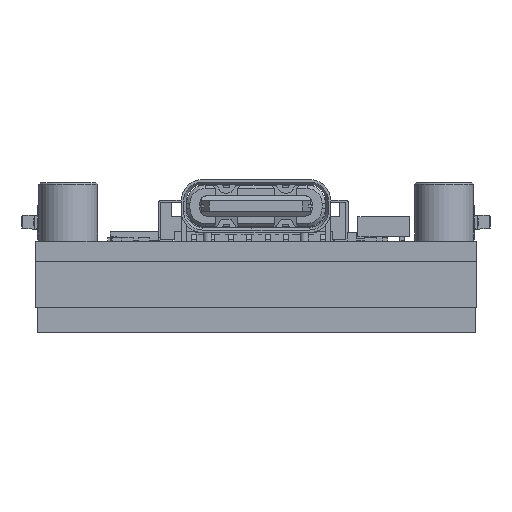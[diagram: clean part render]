
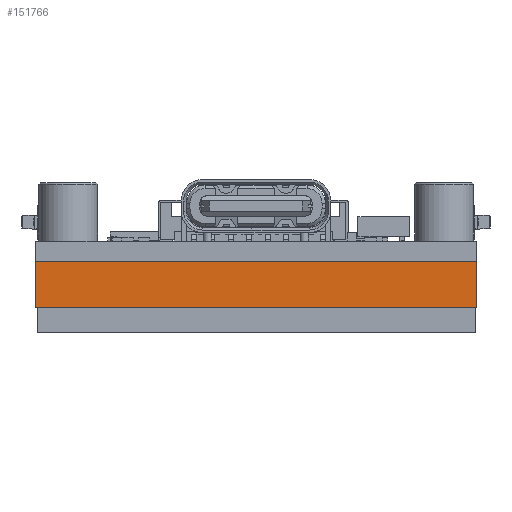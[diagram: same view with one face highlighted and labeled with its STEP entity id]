
A CAD part, front view. The second image highlights one B-rep face of the part: STEP entity #151766.
In plain terms, the highlighted planar face has unit normal (0, -1, 0).
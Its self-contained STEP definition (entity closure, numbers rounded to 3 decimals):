
#150982=DIRECTION('',(-1.,0.,0.));
#150983=VECTOR('',#150982,26.305);
#150984=CARTESIAN_POINT('',(9.295,13.032,-1.2));
#150985=LINE('',#150984,#150983);
#151106=DIRECTION('',(-1.,0.,0.));
#151107=VECTOR('',#151106,26.305);
#151108=CARTESIAN_POINT('',(9.295,13.032,-3.95));
#151109=LINE('',#151108,#151107);
#151163=DIRECTION('',(0.,0.,-1.));
#151164=VECTOR('',#151163,2.75);
#151165=CARTESIAN_POINT('',(9.295,13.032,-1.2));
#151166=LINE('',#151165,#151164);
#151171=DIRECTION('',(0.,0.,-1.));
#151172=VECTOR('',#151171,2.75);
#151173=CARTESIAN_POINT('',(-17.01,13.032,-1.2));
#151174=LINE('',#151173,#151172);
#151235=CARTESIAN_POINT('',(9.295,13.032,-1.2));
#151236=CARTESIAN_POINT('',(-17.01,13.032,-1.2));
#151237=VERTEX_POINT('',#151235);
#151238=VERTEX_POINT('',#151236);
#151239=CARTESIAN_POINT('',(9.295,13.032,-3.95));
#151240=CARTESIAN_POINT('',(-17.01,13.032,-3.95));
#151241=VERTEX_POINT('',#151239);
#151242=VERTEX_POINT('',#151240);
#151754=CARTESIAN_POINT('',(9.295,13.032,-1.2));
#151755=DIRECTION('',(0.,-1.,0.));
#151756=DIRECTION('',(-1.,0.,0.));
#151757=AXIS2_PLACEMENT_3D('',#151754,#151755,#151756);
#151758=PLANE('',#151757);
#151759=ORIENTED_EDGE('',*,*,#151360,.F.);
#151760=ORIENTED_EDGE('',*,*,#151721,.T.);
#151761=ORIENTED_EDGE('',*,*,#151576,.T.);
#151763=ORIENTED_EDGE('',*,*,#151762,.F.);
#151764=EDGE_LOOP('',(#151759,#151760,#151761,#151763));
#151765=FACE_OUTER_BOUND('',#151764,.F.);
#151766=ADVANCED_FACE('',(#151765),#151758,.T.);
#151360=EDGE_CURVE('',#151237,#151238,#150985,.T.);
#151576=EDGE_CURVE('',#151241,#151242,#151109,.T.);
#151721=EDGE_CURVE('',#151237,#151241,#151166,.T.);
#151762=EDGE_CURVE('',#151238,#151242,#151174,.T.);
